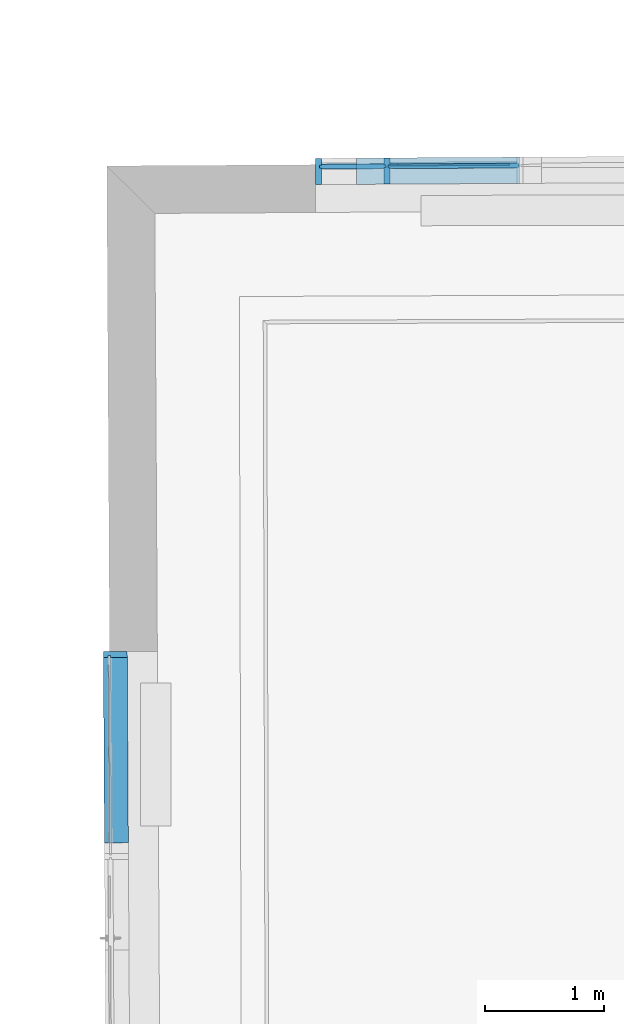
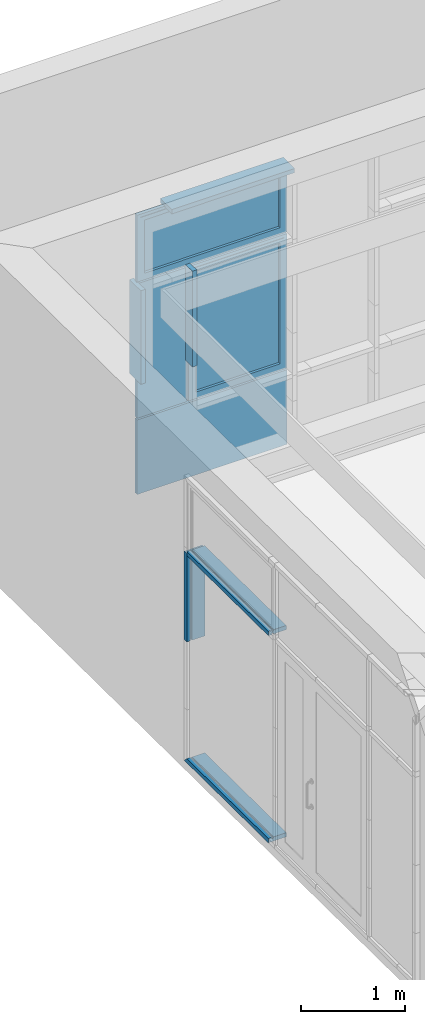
# One storey, part 129 of 196: 12 building element parts, 2 elements without a shape of their own.
"""IFC2X3 building model written with IfcOpenShell, lengths in metres."""

from ifc_helpers import new_model, entity, si_unit, converted_unit, derived_unit, money_unit, direction, frame, origin_with_axes, place, context, subcontext, project, spatial, faceted_brep, material, type_object, element, aggregate, save


model = new_model("IFC2X3")

# Units and contexts
model_context = context("Model", 3, precision=1e-05, world=origin_with_axes(), true_north=direction((0.0, 1.0)))
body_context = subcontext(model_context, "Body", "Model", "MODEL_VIEW")
ifc_project = project(units=[si_unit("LENGTHUNIT", "METRE"), si_unit("AREAUNIT", "SQUARE_METRE"), si_unit("VOLUMEUNIT", "CUBIC_METRE"), converted_unit("PLANEANGLEUNIT", "DEGREE", entity("IfcPlaneAngleMeasure", 0.0174532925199), si_unit("PLANEANGLEUNIT", "RADIAN"), dimensions=[0, 0, 0, 0, 0, 0, 0]), money_unit("EUR"), converted_unit("TIMEUNIT", "Year", entity("IfcTimeMeasure", 31556926.0), si_unit("TIMEUNIT", "SECOND"), dimensions=[0, 0, 1, 0, 0, 0, 0]), si_unit("MASSUNIT", "GRAM", prefix="KILO"), si_unit("THERMODYNAMICTEMPERATUREUNIT", "DEGREE_CELSIUS"), si_unit("LUMINOUSINTENSITYUNIT", "LUMEN"), si_unit("ENERGYUNIT", "JOULE", prefix="MEGA"), derived_unit("THERMALCONDUCTANCEUNIT", [(si_unit("POWERUNIT", "WATT"), 1), (si_unit("LENGTHUNIT", "METRE"), -1), (si_unit("THERMODYNAMICTEMPERATUREUNIT", "KELVIN"), -1)]), derived_unit("SPECIFICHEATCAPACITYUNIT", [(si_unit("ENERGYUNIT", "JOULE"), 1), (si_unit("MASSUNIT", "GRAM", prefix="KILO"), -1), (si_unit("THERMODYNAMICTEMPERATUREUNIT", "KELVIN"), -1)]), derived_unit("MASSDENSITYUNIT", [(si_unit("MASSUNIT", "GRAM", prefix="KILO"), 1), (si_unit("VOLUMEUNIT", "CUBIC_METRE"), -1)])], contexts=[model_context])

# Site, building, storey
site_placement = place(None, origin_with_axes())
site = spatial("IfcSite", under=ifc_project, at=site_placement, Name="Gelände", CompositionType="ELEMENT")
building_placement = place(site_placement, origin_with_axes())
building = spatial("IfcBuilding", under=site, at=building_placement, Name="Gebäude", CompositionType="ELEMENT")
storey_placement = place(building_placement, frame((0.0, 0.0, -3.0), z_axis=(0.0, 0.0, 1.0), x_axis=(1.0, 0.0, 0.0)))
storey = spatial("IfcBuildingStorey", under=building, at=storey_placement, Name="KELLERGESCHOSS", CompositionType="ELEMENT", Elevation=-3.0)

# Proxy, building element parts
building_element_proxy_type = type_object("IfcBuildingElementProxyType", Name="Fassadentyp", PredefinedType="NOTDEFINED")
proxy_1_placement = place(storey_placement, frame((-34.913387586, 47.2552574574, 0.421025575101), z_axis=(0.0, 0.0, 1.0), x_axis=(1.0, 0.0, 0.0)))
proxy_1 = element("IfcBuildingElementProxy", 1, at=proxy_1_placement, inside=storey, type_object=building_element_proxy_type, Name="Fassade-002")
ifc_material_1 = material(Name="53_Metall, Aluminium")
building_element_part_1_placement = place(proxy_1_placement, origin_with_axes())
building_element_part_1 = element("IfcBuildingElementPart", 2, at=building_element_part_1_placement, material=ifc_material_1, Name="53_Metall, Aluminium", context=body_context, shape_type="Brep", body=[
    faceted_brep([(-0.00495621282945, 2.55018641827, 2.45764338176), (-0.00486824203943, 2.53518667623, 2.45764338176), (0.135129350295, 2.53600773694, 2.45764338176), (0.134836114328, 2.58600687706, 2.45764338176), (-0.0651604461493, 2.58483393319, 2.45764338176), (-0.0648672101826, 2.53483479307, 2.45764338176), (-0.0248678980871, 2.53506938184, 2.45764338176), (-0.0249558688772, 2.55006912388, 2.45764338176), (-0.00495621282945, 2.55018641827, 1.42000003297), (-0.00486824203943, 2.53518667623, 1.42000003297), (0.135129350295, 2.53600773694, 1.42000003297), (0.134836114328, 2.58600687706, 1.42000003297), (-0.0651604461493, 2.58483393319, 1.42000003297), (-0.0648672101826, 2.53483479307, 1.42000003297), (-0.0248678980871, 2.53506938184, 1.42000003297), (-0.0249558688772, 2.55006912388, 1.42000003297)], [[[0, 1, 2, 3, 4, 5, 6, 7]], [[0, 8, 9, 1]], [[9, 10, 2, 1]], [[10, 11, 3, 2]], [[11, 12, 4, 3]], [[12, 13, 5, 4]], [[6, 5, 13, 14]], [[14, 15, 7, 6]], [[7, 15, 8, 0]], [[8, 15, 14, 13, 12, 11, 10, 9]]]),
])
building_element_part_2_placement = place(proxy_1_placement, origin_with_axes())
building_element_part_2 = element("IfcBuildingElementPart", 3, at=building_element_part_2_placement, material=ifc_material_1, Name="53_Metall, Aluminium", context=body_context, shape_type="Brep", body=[
    faceted_brep([(0.00424004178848, 0.982149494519, 2.44764338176), (0.00424004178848, 0.982149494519, 2.43264338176), (0.144237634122, 0.982970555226, 2.43264338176), (0.144237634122, 0.982970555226, 2.48264338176), (0.00424004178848, 0.982149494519, 2.48264338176), (0.00424004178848, 0.982149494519, 2.46764338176), (-0.0157596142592, 0.982032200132, 2.46764338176), (-0.0157596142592, 0.982032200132, 2.48264338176), (-0.0557589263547, 0.981797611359, 2.48264338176), (-0.0557589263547, 0.981797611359, 2.43264338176), (-0.0157596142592, 0.982032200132, 2.43264338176), (-0.0157596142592, 0.982032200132, 2.44764338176), (-0.00486824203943, 2.53518667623, 2.44764338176), (-0.00486824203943, 2.53518667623, 2.43264338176), (0.135129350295, 2.53600773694, 2.43264338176), (0.135129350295, 2.53600773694, 2.48264338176), (-0.00486824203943, 2.53518667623, 2.48264338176), (-0.00486824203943, 2.53518667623, 2.46764338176), (-0.0248678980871, 2.53506938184, 2.46764338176), (-0.0248678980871, 2.53506938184, 2.48264338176), (-0.0648672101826, 2.53483479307, 2.48264338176), (-0.0648672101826, 2.53483479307, 2.43264338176), (-0.0248678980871, 2.53506938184, 2.43264338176), (-0.0248678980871, 2.53506938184, 2.44764338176)], [[[0, 1, 2, 3, 4, 5, 6, 7, 8, 9, 10, 11]], [[1, 0, 12, 13]], [[1, 13, 14, 2]], [[2, 14, 15, 3]], [[4, 3, 15, 16]], [[4, 16, 17, 5]], [[5, 17, 18, 6]], [[7, 6, 18, 19]], [[19, 20, 8, 7]], [[8, 20, 21, 9]], [[22, 10, 9, 21]], [[11, 10, 22, 23]], [[0, 11, 23, 12]], [[23, 22, 21, 20, 19, 18, 17, 16, 15, 14, 13, 12]]]),
])
building_element_part_3_placement = place(proxy_1_placement, origin_with_axes())
building_element_part_3 = element("IfcBuildingElementPart", 4, at=building_element_part_3_placement, material=ifc_material_1, Name="53_Metall, Aluminium", context=body_context, shape_type="Brep", body=[
    faceted_brep([(0.00424004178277, 0.982149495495, 0.035), (-0.015759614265, 0.982032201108, 0.035), (-0.015759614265, 0.982032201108, 0.05), (-0.0557589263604, 0.981797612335, 0.05), (-0.0557589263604, 0.981797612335, 0.0), (0.144237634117, 0.982970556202, 0.0), (0.144237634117, 0.982970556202, 0.05), (0.00424004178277, 0.982149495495, 0.05), (-0.00495621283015, 2.55018641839, 0.035), (-0.0249558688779, 2.550069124, 0.035), (-0.0248678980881, 2.53506938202, 0.05), (-0.0648672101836, 2.53483479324, 0.05), (-0.0651604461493, 2.58483393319, 0.0), (0.134836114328, 2.58600687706, 0.0), (0.135129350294, 2.53600773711, 0.05), (-0.00486824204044, 2.5351866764, 0.05)], [[[0, 1, 2, 3, 4, 5, 6, 7]], [[1, 0, 8, 9]], [[10, 2, 1, 9]], [[2, 10, 11, 3]], [[4, 3, 11, 12]], [[5, 4, 12, 13]], [[6, 5, 13, 14]], [[15, 7, 6, 14]], [[0, 7, 15, 8]], [[8, 15, 14, 13, 12, 11, 10, 9]]]),
])
aggregate(proxy_1, [building_element_part_1, building_element_part_2, building_element_part_3])

proxy_2_placement = place(storey_placement, frame((-32.8906294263, 53.9050625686, 0.421025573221), z_axis=(0.0, 0.0, 1.0), x_axis=(1.0, 0.0, 0.0)))
proxy_2 = element("IfcBuildingElementProxy", 5, at=proxy_2_placement, inside=storey, type_object=building_element_proxy_type, Name="Fassade-002")
ifc_material_2 = material(Name="45_Glas, Normalglas")
building_element_part_4_placement = place(proxy_2_placement, origin_with_axes())
building_element_part_4 = element("IfcBuildingElementPart", 6, at=building_element_part_4_placement, material=ifc_material_2, Name="45_Glas, Normalglas", context=body_context, shape_type="Brep", body=[
    faceted_brep([(-0.276092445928, -0.0216314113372, 2.51000004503), (0.0341180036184, -0.0197987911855, 2.51000004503), (0.033881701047, 0.0202005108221, 2.51000004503), (-0.2763287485, 0.0183678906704, 2.51000004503), (-0.276092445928, -0.0216314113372, 1.42000003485), (-0.276092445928, -0.0216314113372, 0.930851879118), (0.0341180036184, -0.0197987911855, 0.930851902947), (0.27866174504, -0.0183541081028, 0.930851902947), (0.27866174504, -0.0183541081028, 1.42000003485), (0.27866174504, -0.0183541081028, 2.51000004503), (0.278425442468, 0.0216451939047, 2.51000004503), (0.278425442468, 0.0216451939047, 1.42000003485), (0.278425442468, 0.0216451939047, 0.930851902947), (0.033881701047, 0.0202005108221, 0.930851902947), (-0.2763287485, 0.0183678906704, 0.930851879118), (-0.2763287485, 0.0183678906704, 1.42000003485)], [[[0, 1, 2, 3]], [[0, 4, 5, 6, 7, 8, 9, 1]], [[1, 9, 10, 2]], [[3, 2, 10, 11, 12, 13, 14, 15]], [[4, 0, 3, 15]], [[5, 4, 15, 14]], [[6, 5, 14, 13]], [[7, 6, 13, 12]], [[8, 7, 12, 11]], [[9, 8, 11, 10]]]),
])
building_element_part_5_placement = place(proxy_2_placement, origin_with_axes())
building_element_part_5 = element("IfcBuildingElementPart", 7, at=building_element_part_5_placement, material=ifc_material_1, Name="53_Metall, Aluminium", context=body_context, shape_type="Brep", body=[
    faceted_brep([(1.37878358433, 0.0381459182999, 0.945851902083), (0.313365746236, 0.0318517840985, 0.945851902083), (0.313336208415, 0.0368516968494, 0.945851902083), (1.37875404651, 0.0431458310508, 0.945851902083), (1.33378436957, 0.037880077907, 0.990851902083), (0.358364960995, 0.0321176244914, 0.990851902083), (0.358335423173, 0.0371175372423, 0.990851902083), (1.33375483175, 0.0428799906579, 0.990851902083)], [[[0, 1, 2, 3]], [[0, 4, 5, 1]], [[1, 5, 6, 2]], [[3, 2, 6, 7]], [[4, 0, 3, 7]], [[5, 4, 7, 6]]]),
    faceted_brep([(0.313365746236, 0.0318517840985, 0.945851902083), (0.313365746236, 0.0318517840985, 2.4950000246), (0.313336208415, 0.0368516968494, 2.4950000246), (0.313336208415, 0.0368516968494, 0.945851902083), (0.358364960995, 0.0321176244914, 0.990851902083), (0.358364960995, 0.0321176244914, 2.4500000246), (0.358335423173, 0.0371175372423, 2.4500000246), (0.358335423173, 0.0371175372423, 0.990851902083)], [[[0, 1, 2, 3]], [[0, 4, 5, 1]], [[1, 5, 6, 2]], [[3, 2, 6, 7]], [[4, 0, 3, 7]], [[5, 4, 7, 6]]]),
    faceted_brep([(1.37878358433, 0.0381459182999, 2.4950000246), (1.33378436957, 0.037880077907, 2.4500000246), (1.33375483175, 0.0428799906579, 2.4500000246), (1.37875404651, 0.0431458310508, 2.4950000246), (0.313365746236, 0.0318517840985, 2.4950000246), (0.358364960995, 0.0321176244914, 2.4500000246), (0.358335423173, 0.0371175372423, 2.4500000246), (0.313336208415, 0.0368516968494, 2.4950000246)], [[[0, 1, 2, 3]], [[0, 4, 5, 1]], [[1, 5, 6, 2]], [[3, 2, 6, 7]], [[4, 0, 3, 7]], [[5, 4, 7, 6]]]),
    faceted_brep([(1.37878358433, 0.0381459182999, 0.945851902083), (1.33378436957, 0.037880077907, 0.990851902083), (1.33375483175, 0.0428799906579, 0.990851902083), (1.37875404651, 0.0431458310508, 0.945851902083), (1.37878358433, 0.0381459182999, 2.4950000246), (1.33378436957, 0.037880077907, 2.4500000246), (1.33375483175, 0.0428799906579, 2.4500000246), (1.37875404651, 0.0431458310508, 2.4950000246)], [[[0, 1, 2, 3]], [[0, 4, 5, 1]], [[1, 5, 6, 2]], [[3, 2, 6, 7]], [[4, 0, 3, 7]], [[5, 4, 7, 6]]]),
    faceted_brep([(1.37907896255, -0.0118532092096, 0.945851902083), (0.31366112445, -0.018147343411, 0.945851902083), (0.313365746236, 0.0318517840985, 0.945851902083), (1.37878358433, 0.0381459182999, 0.945851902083), (1.35907931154, -0.0119713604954, 0.965851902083), (0.333660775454, -0.0180291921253, 0.965851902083), (0.33336539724, 0.0319699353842, 0.965851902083), (1.35878393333, 0.0380277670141, 0.965851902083)], [[[0, 1, 2, 3]], [[0, 4, 5, 1]], [[1, 5, 6, 2]], [[3, 2, 6, 7]], [[4, 0, 3, 7]], [[5, 4, 7, 6]]]),
    faceted_brep([(0.31366112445, -0.018147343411, 0.945851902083), (0.31366112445, -0.018147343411, 2.4950000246), (0.313365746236, 0.0318517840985, 2.4950000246), (0.313365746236, 0.0318517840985, 0.945851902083), (0.333660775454, -0.0180291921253, 0.965851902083), (0.333660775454, -0.0180291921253, 2.4750000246), (0.33336539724, 0.0319699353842, 2.4750000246), (0.33336539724, 0.0319699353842, 0.965851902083)], [[[0, 1, 2, 3]], [[0, 4, 5, 1]], [[1, 5, 6, 2]], [[3, 2, 6, 7]], [[4, 0, 3, 7]], [[5, 4, 7, 6]]]),
    faceted_brep([(1.37907896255, -0.0118532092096, 2.4950000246), (1.35907931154, -0.0119713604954, 2.4750000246), (1.35878393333, 0.0380277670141, 2.4750000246), (1.37878358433, 0.0381459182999, 2.4950000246), (0.31366112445, -0.018147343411, 2.4950000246), (0.333660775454, -0.0180291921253, 2.4750000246), (0.33336539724, 0.0319699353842, 2.4750000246), (0.313365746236, 0.0318517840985, 2.4950000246)], [[[0, 1, 2, 3]], [[0, 4, 5, 1]], [[1, 5, 6, 2]], [[3, 2, 6, 7]], [[4, 0, 3, 7]], [[5, 4, 7, 6]]]),
    faceted_brep([(1.37907896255, -0.0118532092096, 0.945851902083), (1.35907931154, -0.0119713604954, 0.965851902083), (1.35878393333, 0.0380277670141, 0.965851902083), (1.37878358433, 0.0381459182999, 0.945851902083), (1.37907896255, -0.0118532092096, 2.4950000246), (1.35907931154, -0.0119713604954, 2.4750000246), (1.35878393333, 0.0380277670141, 2.4750000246), (1.37878358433, 0.0381459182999, 2.4950000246)], [[[0, 1, 2, 3]], [[0, 4, 5, 1]], [[1, 5, 6, 2]], [[3, 2, 6, 7]], [[4, 0, 3, 7]], [[5, 4, 7, 6]]]),
    faceted_brep([(1.39407872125, -0.0117645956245, 0.930851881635), (0.298661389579, -0.0182359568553, 0.930851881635), (0.298425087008, 0.0217633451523, 0.930851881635), (1.39384241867, 0.028234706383, 0.930851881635), (1.37907896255, -0.0118532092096, 0.945851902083), (0.31366112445, -0.018147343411, 0.945851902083), (0.313424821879, 0.0218519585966, 0.945851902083), (1.37884265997, 0.028146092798, 0.945851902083)], [[[0, 1, 2, 3]], [[0, 4, 5, 1]], [[1, 5, 6, 2]], [[3, 2, 6, 7]], [[4, 0, 3, 7]], [[5, 4, 7, 6]]]),
    faceted_brep([(0.298661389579, -0.0182359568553, 0.930851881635), (0.298661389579, -0.0182359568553, 2.51000004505), (0.298425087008, 0.0217633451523, 2.51000004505), (0.298425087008, 0.0217633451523, 0.930851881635), (0.31366112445, -0.018147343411, 0.945851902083), (0.31366112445, -0.018147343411, 2.4950000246), (0.313424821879, 0.0218519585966, 2.4950000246), (0.313424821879, 0.0218519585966, 0.945851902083)], [[[0, 1, 2, 3]], [[0, 4, 5, 1]], [[1, 5, 6, 2]], [[3, 2, 6, 7]], [[4, 0, 3, 7]], [[5, 4, 7, 6]]]),
    faceted_brep([(0.298661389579, -0.0182359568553, 2.51000004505), (1.39407872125, -0.0117645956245, 2.51000004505), (1.39384241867, 0.028234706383, 2.51000004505), (0.298425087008, 0.0217633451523, 2.51000004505), (0.31366112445, -0.018147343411, 2.4950000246), (1.37907896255, -0.0118532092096, 2.4950000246), (1.37884265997, 0.028146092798, 2.4950000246), (0.313424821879, 0.0218519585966, 2.4950000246)], [[[0, 1, 2, 3]], [[0, 4, 5, 1]], [[1, 5, 6, 2]], [[3, 2, 6, 7]], [[4, 0, 3, 7]], [[5, 4, 7, 6]]]),
    faceted_brep([(1.39407872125, -0.0117645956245, 2.51000004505), (1.39407872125, -0.0117645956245, 0.930851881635), (1.39384241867, 0.028234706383, 0.930851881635), (1.39384241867, 0.028234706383, 2.51000004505), (1.37907896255, -0.0118532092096, 2.4950000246), (1.37907896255, -0.0118532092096, 0.945851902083), (1.37884265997, 0.028146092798, 0.945851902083), (1.37884265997, 0.028146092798, 2.4950000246)], [[[0, 1, 2, 3]], [[0, 4, 5, 1]], [[1, 5, 6, 2]], [[3, 2, 6, 7]], [[4, 0, 3, 7]], [[5, 4, 7, 6]]]),
    faceted_brep([(1.31378471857, 0.0377619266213, 1.01085190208), (1.3141096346, -0.0172371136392, 1.01085190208), (1.3141096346, -0.0172371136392, 2.4300000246), (1.31378471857, 0.0377619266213, 2.4300000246), (1.35878393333, 0.0380277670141, 0.965851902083), (1.35910884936, -0.0169712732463, 0.965851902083), (1.35910884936, -0.0169712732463, 2.4750000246), (1.35878393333, 0.0380277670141, 2.4750000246)], [[[0, 1, 2, 3]], [[4, 5, 1, 0]], [[1, 5, 6, 2]], [[3, 2, 6, 7]], [[0, 3, 7, 4]], [[7, 6, 5, 4]]]),
    faceted_brep([(0.33336539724, 0.0319699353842, 0.965851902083), (0.333690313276, -0.0230291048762, 0.965851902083), (0.333690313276, -0.0230291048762, 2.4750000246), (0.33336539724, 0.0319699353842, 2.4750000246), (0.378364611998, 0.0322357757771, 1.01085190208), (0.378689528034, -0.0227632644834, 1.01085190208), (0.378689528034, -0.0227632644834, 2.4300000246), (0.378364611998, 0.0322357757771, 2.4300000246)], [[[0, 1, 2, 3]], [[4, 5, 1, 0]], [[1, 5, 6, 2]], [[3, 2, 6, 7]], [[0, 3, 7, 4]], [[7, 6, 5, 4]]]),
    faceted_brep([(0.33336539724, 0.0319699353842, 0.965851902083), (0.333690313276, -0.0230291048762, 0.965851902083), (0.378689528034, -0.0227632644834, 1.01085190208), (0.378364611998, 0.0322357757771, 1.01085190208), (1.35878393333, 0.0380277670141, 0.965851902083), (1.35910884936, -0.0169712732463, 0.965851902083), (1.3141096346, -0.0172371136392, 1.01085190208), (1.31378471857, 0.0377619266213, 1.01085190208)], [[[0, 1, 2, 3]], [[4, 5, 1, 0]], [[1, 5, 6, 2]], [[3, 2, 6, 7]], [[0, 3, 7, 4]], [[7, 6, 5, 4]]]),
    faceted_brep([(1.35878393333, 0.0380277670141, 2.4750000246), (1.35910884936, -0.0169712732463, 2.4750000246), (1.3141096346, -0.0172371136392, 2.4300000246), (1.31378471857, 0.0377619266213, 2.4300000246), (0.33336539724, 0.0319699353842, 2.4750000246), (0.333690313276, -0.0230291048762, 2.4750000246), (0.378689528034, -0.0227632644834, 2.4300000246), (0.378364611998, 0.0322357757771, 2.4300000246)], [[[0, 1, 2, 3]], [[4, 5, 1, 0]], [[1, 5, 6, 2]], [[3, 2, 6, 7]], [[0, 3, 7, 4]], [[7, 6, 5, 4]]]),
])
building_element_part_6_placement = place(proxy_2_placement, origin_with_axes())
building_element_part_6 = element("IfcBuildingElementPart", 8, at=building_element_part_6_placement, material=ifc_material_2, Name="45_Glas, Normalglas", context=body_context, shape_type="Brep", body=[
    faceted_brep([(1.31384379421, 0.0277621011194, 1.01085190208), (1.31393831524, 0.0117623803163, 1.01085190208), (0.37851820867, 0.00623622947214, 1.01085190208), (0.378423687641, 0.0222359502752, 1.01085190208), (1.31384379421, 0.0277621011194, 2.4300000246), (1.31393831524, 0.0117623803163, 2.4300000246), (0.37851820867, 0.00623622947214, 2.4300000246), (0.378423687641, 0.0222359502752, 2.4300000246)], [[[0, 1, 2, 3]], [[4, 5, 1, 0]], [[1, 5, 6, 2]], [[3, 2, 6, 7]], [[0, 3, 7, 4]], [[7, 6, 5, 4]]]),
])
building_element_part_7_placement = place(proxy_2_placement, origin_with_axes())
building_element_part_7 = element("IfcBuildingElementPart", 9, at=building_element_part_7_placement, material=ifc_material_1, Name="53_Metall, Aluminium", context=body_context, shape_type="Brep", body=[
    faceted_brep([(1.37878359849, 0.0381459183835, 2.54500003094), (-0.261388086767, 0.0284563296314, 2.54500003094), (-0.261417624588, 0.0334562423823, 2.54500003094), (1.37875406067, 0.0431458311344, 2.54500003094), (1.33378438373, 0.0378800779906, 2.59000003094), (-0.216388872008, 0.0287221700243, 2.59000003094), (-0.21641840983, 0.0337220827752, 2.59000003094), (1.33375484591, 0.0428799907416, 2.59000003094)], [[[0, 1, 2, 3]], [[0, 4, 5, 1]], [[1, 5, 6, 2]], [[3, 2, 6, 7]], [[4, 0, 3, 7]], [[5, 4, 7, 6]]]),
    faceted_brep([(-0.261388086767, 0.0284563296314, 2.54500003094), (-0.261388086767, 0.0284563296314, 3.29999994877), (-0.261417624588, 0.0334562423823, 3.29999994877), (-0.261417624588, 0.0334562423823, 2.54500003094), (-0.216388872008, 0.0287221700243, 2.59000003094), (-0.216388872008, 0.0287221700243, 3.25499994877), (-0.21641840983, 0.0337220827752, 3.25499994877), (-0.21641840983, 0.0337220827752, 2.59000003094)], [[[0, 1, 2, 3]], [[0, 4, 5, 1]], [[1, 5, 6, 2]], [[3, 2, 6, 7]], [[4, 0, 3, 7]], [[5, 4, 7, 6]]]),
    faceted_brep([(1.37878359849, 0.0381459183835, 3.29999994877), (1.33378438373, 0.0378800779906, 3.25499994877), (1.33375484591, 0.0428799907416, 3.25499994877), (1.37875406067, 0.0431458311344, 3.29999994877), (-0.261388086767, 0.0284563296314, 3.29999994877), (-0.216388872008, 0.0287221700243, 3.25499994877), (-0.21641840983, 0.0337220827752, 3.25499994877), (-0.261417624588, 0.0334562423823, 3.29999994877)], [[[0, 1, 2, 3]], [[0, 4, 5, 1]], [[1, 5, 6, 2]], [[3, 2, 6, 7]], [[4, 0, 3, 7]], [[5, 4, 7, 6]]]),
    faceted_brep([(1.37878359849, 0.0381459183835, 2.54500003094), (1.33378438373, 0.0378800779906, 2.59000003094), (1.33375484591, 0.0428799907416, 2.59000003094), (1.37875406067, 0.0431458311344, 2.54500003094), (1.37878359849, 0.0381459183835, 3.29999994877), (1.33378438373, 0.0378800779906, 3.25499994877), (1.33375484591, 0.0428799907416, 3.25499994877), (1.37875406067, 0.0431458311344, 3.29999994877)], [[[0, 1, 2, 3]], [[0, 4, 5, 1]], [[1, 5, 6, 2]], [[3, 2, 6, 7]], [[4, 0, 3, 7]], [[5, 4, 7, 6]]]),
    faceted_brep([(1.3790789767, -0.011853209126, 2.54500003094), (-0.261092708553, -0.0215427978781, 2.54500003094), (-0.261388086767, 0.0284563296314, 2.54500003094), (1.37878359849, 0.0381459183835, 2.54500003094), (1.3590793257, -0.0119713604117, 2.56500003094), (-0.241093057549, -0.0214246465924, 2.56500003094), (-0.241388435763, 0.0285744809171, 2.56500003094), (1.35878394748, 0.0380277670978, 2.56500003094)], [[[0, 1, 2, 3]], [[0, 4, 5, 1]], [[1, 5, 6, 2]], [[3, 2, 6, 7]], [[4, 0, 3, 7]], [[5, 4, 7, 6]]]),
    faceted_brep([(-0.261092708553, -0.0215427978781, 2.54500003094), (-0.261092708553, -0.0215427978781, 3.29999994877), (-0.261388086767, 0.0284563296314, 3.29999994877), (-0.261388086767, 0.0284563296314, 2.54500003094), (-0.241093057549, -0.0214246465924, 2.56500003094), (-0.241093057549, -0.0214246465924, 3.27999994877), (-0.241388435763, 0.0285744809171, 3.27999994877), (-0.241388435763, 0.0285744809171, 2.56500003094)], [[[0, 1, 2, 3]], [[0, 4, 5, 1]], [[1, 5, 6, 2]], [[3, 2, 6, 7]], [[4, 0, 3, 7]], [[5, 4, 7, 6]]]),
    faceted_brep([(1.3790789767, -0.011853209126, 3.29999994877), (1.3590793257, -0.0119713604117, 3.27999994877), (1.35878394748, 0.0380277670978, 3.27999994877), (1.37878359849, 0.0381459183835, 3.29999994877), (-0.261092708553, -0.0215427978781, 3.29999994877), (-0.241093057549, -0.0214246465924, 3.27999994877), (-0.241388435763, 0.0285744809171, 3.27999994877), (-0.261388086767, 0.0284563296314, 3.29999994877)], [[[0, 1, 2, 3]], [[0, 4, 5, 1]], [[1, 5, 6, 2]], [[3, 2, 6, 7]], [[4, 0, 3, 7]], [[5, 4, 7, 6]]]),
    faceted_brep([(1.3790789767, -0.011853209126, 2.54500003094), (1.3590793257, -0.0119713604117, 2.56500003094), (1.35878394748, 0.0380277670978, 2.56500003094), (1.37878359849, 0.0381459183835, 2.54500003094), (1.3790789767, -0.011853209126, 3.29999994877), (1.3590793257, -0.0119713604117, 3.27999994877), (1.35878394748, 0.0380277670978, 3.27999994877), (1.37878359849, 0.0381459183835, 3.29999994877)], [[[0, 1, 2, 3]], [[0, 4, 5, 1]], [[1, 5, 6, 2]], [[3, 2, 6, 7]], [[4, 0, 3, 7]], [[5, 4, 7, 6]]]),
    faceted_brep([(1.39407871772, -0.0117645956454, 2.53000002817), (-0.276092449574, -0.0216314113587, 2.53000002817), (-0.276328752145, 0.0183678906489, 2.53000002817), (1.39384241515, 0.0282347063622, 2.53000002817), (1.3790789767, -0.011853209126, 2.54500003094), (-0.261092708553, -0.0215427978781, 2.54500003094), (-0.261329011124, 0.0184565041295, 2.54500003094), (1.37884267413, 0.0281460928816, 2.54500003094)], [[[0, 1, 2, 3]], [[0, 4, 5, 1]], [[1, 5, 6, 2]], [[3, 2, 6, 7]], [[4, 0, 3, 7]], [[5, 4, 7, 6]]]),
    faceted_brep([(-0.276092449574, -0.0216314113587, 2.53000002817), (-0.276092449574, -0.0216314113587, 3.31499995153), (-0.276328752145, 0.0183678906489, 3.31499995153), (-0.276328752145, 0.0183678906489, 2.53000002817), (-0.261092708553, -0.0215427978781, 2.54500003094), (-0.261092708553, -0.0215427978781, 3.29999994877), (-0.261329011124, 0.0184565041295, 3.29999994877), (-0.261329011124, 0.0184565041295, 2.54500003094)], [[[0, 1, 2, 3]], [[0, 4, 5, 1]], [[1, 5, 6, 2]], [[3, 2, 6, 7]], [[4, 0, 3, 7]], [[5, 4, 7, 6]]]),
    faceted_brep([(-0.276092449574, -0.0216314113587, 3.31499995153), (1.39407871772, -0.0117645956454, 3.31499995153), (1.39384241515, 0.0282347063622, 3.31499995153), (-0.276328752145, 0.0183678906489, 3.31499995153), (-0.261092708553, -0.0215427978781, 3.29999994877), (1.3790789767, -0.011853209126, 3.29999994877), (1.37884267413, 0.0281460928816, 3.29999994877), (-0.261329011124, 0.0184565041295, 3.29999994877)], [[[0, 1, 2, 3]], [[0, 4, 5, 1]], [[1, 5, 6, 2]], [[3, 2, 6, 7]], [[4, 0, 3, 7]], [[5, 4, 7, 6]]]),
    faceted_brep([(1.39407871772, -0.0117645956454, 3.31499995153), (1.39407871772, -0.0117645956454, 2.53000002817), (1.39384241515, 0.0282347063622, 2.53000002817), (1.39384241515, 0.0282347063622, 3.31499995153), (1.3790789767, -0.011853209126, 3.29999994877), (1.3790789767, -0.011853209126, 2.54500003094), (1.37884267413, 0.0281460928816, 2.54500003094), (1.37884267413, 0.0281460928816, 3.29999994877)], [[[0, 1, 2, 3]], [[0, 4, 5, 1]], [[1, 5, 6, 2]], [[3, 2, 6, 7]], [[4, 0, 3, 7]], [[5, 4, 7, 6]]]),
    faceted_brep([(1.31378473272, 0.0377619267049, 2.61000003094), (1.31410964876, -0.0172371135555, 2.61000003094), (1.31410964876, -0.0172371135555, 3.23499994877), (1.31378473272, 0.0377619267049, 3.23499994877), (1.35878394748, 0.0380277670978, 2.56500003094), (1.35910886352, -0.0169712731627, 2.56500003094), (1.35910886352, -0.0169712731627, 3.27999994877), (1.35878394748, 0.0380277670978, 3.27999994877)], [[[0, 1, 2, 3]], [[4, 5, 1, 0]], [[1, 5, 6, 2]], [[3, 2, 6, 7]], [[0, 3, 7, 4]], [[7, 6, 5, 4]]]),
    faceted_brep([(-0.241388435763, 0.0285744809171, 2.56500003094), (-0.241063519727, -0.0264245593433, 2.56500003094), (-0.241063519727, -0.0264245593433, 3.27999994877), (-0.241388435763, 0.0285744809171, 3.27999994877), (-0.196389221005, 0.02884032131, 2.61000003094), (-0.196064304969, -0.0261587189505, 2.61000003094), (-0.196064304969, -0.0261587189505, 3.23499994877), (-0.196389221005, 0.02884032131, 3.23499994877)], [[[0, 1, 2, 3]], [[4, 5, 1, 0]], [[1, 5, 6, 2]], [[3, 2, 6, 7]], [[0, 3, 7, 4]], [[7, 6, 5, 4]]]),
    faceted_brep([(-0.241388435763, 0.0285744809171, 2.56500003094), (-0.241063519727, -0.0264245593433, 2.56500003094), (-0.196064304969, -0.0261587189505, 2.61000003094), (-0.196389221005, 0.02884032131, 2.61000003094), (1.35878394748, 0.0380277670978, 2.56500003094), (1.35910886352, -0.0169712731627, 2.56500003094), (1.31410964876, -0.0172371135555, 2.61000003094), (1.31378473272, 0.0377619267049, 2.61000003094)], [[[0, 1, 2, 3]], [[4, 5, 1, 0]], [[1, 5, 6, 2]], [[3, 2, 6, 7]], [[0, 3, 7, 4]], [[7, 6, 5, 4]]]),
    faceted_brep([(1.35878394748, 0.0380277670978, 3.27999994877), (1.35910886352, -0.0169712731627, 3.27999994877), (1.31410964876, -0.0172371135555, 3.23499994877), (1.31378473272, 0.0377619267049, 3.23499994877), (-0.241388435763, 0.0285744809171, 3.27999994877), (-0.241063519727, -0.0264245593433, 3.27999994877), (-0.196064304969, -0.0261587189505, 3.23499994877), (-0.196389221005, 0.02884032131, 3.23499994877)], [[[0, 1, 2, 3]], [[4, 5, 1, 0]], [[1, 5, 6, 2]], [[3, 2, 6, 7]], [[0, 3, 7, 4]], [[7, 6, 5, 4]]]),
])
building_element_part_8_placement = place(proxy_2_placement, origin_with_axes())
building_element_part_8 = element("IfcBuildingElementPart", 10, at=building_element_part_8_placement, material=ifc_material_2, Name="45_Glas, Normalglas", context=body_context, shape_type="Brep", body=[
    faceted_brep([(1.31384380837, 0.027762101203, 2.61000003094), (1.3139383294, 0.0117623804, 2.61000003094), (-0.196235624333, 0.00284077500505, 2.61000003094), (-0.196330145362, 0.0188404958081, 2.61000003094), (1.31384380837, 0.027762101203, 3.23499994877), (1.3139383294, 0.0117623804, 3.23499994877), (-0.196235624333, 0.00284077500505, 3.23499994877), (-0.196330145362, 0.0188404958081, 3.23499994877)], [[[0, 1, 2, 3]], [[4, 5, 1, 0]], [[1, 5, 6, 2]], [[3, 2, 6, 7]], [[0, 3, 7, 4]], [[7, 6, 5, 4]]]),
])
building_element_part_9_placement = place(proxy_2_placement, origin_with_axes())
building_element_part_9 = element("IfcBuildingElementPart", 11, at=building_element_part_9_placement, material=ifc_material_2, Name="45_Glas, Normalglas", context=body_context, shape_type="Brep", body=[
    faceted_brep([(-0.276092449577, -0.0216314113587, 0.910851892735), (0.0341180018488, -0.0197987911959, 0.910851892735), (0.0338816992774, 0.0202005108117, 0.910851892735), (-0.276328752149, 0.0183678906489, 0.910851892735), (-0.276092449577, -0.0216314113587, 0.620000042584), (-0.276092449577, -0.0216314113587, 0.0349999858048), (0.0341180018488, -0.0197987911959, 0.0349999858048), (1.39407871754, -0.0117645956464, 0.0349999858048), (1.39407871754, -0.0117645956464, 0.620000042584), (1.39407871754, -0.0117645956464, 0.910851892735), (0.288661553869, -0.0182950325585, 0.910851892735), (0.288425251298, 0.0217042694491, 0.910851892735), (1.39384241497, 0.0282347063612, 0.910851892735), (1.39384241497, 0.0282347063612, 0.620000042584), (1.39384241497, 0.0282347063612, 0.0349999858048), (0.0338816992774, 0.0202005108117, 0.0349999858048), (-0.276328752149, 0.0183678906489, 0.0349999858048), (-0.276328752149, 0.0183678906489, 0.620000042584)], [[[0, 1, 2, 3]], [[0, 4, 5, 6, 7, 8, 9, 10, 1]], [[1, 10, 11, 2]], [[3, 2, 11, 12, 13, 14, 15, 16, 17]], [[4, 0, 3, 17]], [[5, 4, 17, 16]], [[6, 5, 16, 15]], [[7, 6, 15, 14]], [[8, 7, 14, 13]], [[9, 8, 13, 12]], [[10, 9, 12, 11]]]),
])
building_element_part_10_placement = place(proxy_2_placement, origin_with_axes())
building_element_part_10 = element("IfcBuildingElementPart", 12, at=building_element_part_10_placement, material=ifc_material_1, Name="53_Metall, Aluminium", context=body_context, shape_type="Brep", body=[
    faceted_brep([(0.0340589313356, -0.00979896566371, 3.31499994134), (0.0340589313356, -0.00979896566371, 3.29999994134), (0.0348859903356, -0.14979652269, 3.29999994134), (0.0348859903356, -0.14979652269, 3.34999994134), (0.0335863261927, 0.0701996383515, 3.34999994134), (0.0335863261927, 0.0701996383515, 3.29999994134), (0.0339407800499, 0.0102006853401, 3.29999994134), (0.0339407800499, 0.0102006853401, 3.31499994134), (1.40401946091, -0.00170569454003, 3.31499994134), (1.40401946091, -0.00170569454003, 3.29999994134), (1.40484651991, -0.141703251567, 3.29999994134), (1.40484651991, -0.141703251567, 3.34999994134), (1.40354685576, 0.0782929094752, 3.34999994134), (1.40354685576, 0.0782929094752, 3.29999994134), (1.40390130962, 0.0182939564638, 3.29999994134), (1.40390130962, 0.0182939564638, 3.31499994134)], [[[0, 1, 2, 3, 4, 5, 6, 7]], [[0, 8, 9, 1]], [[9, 10, 2, 1]], [[10, 11, 3, 2]], [[11, 12, 4, 3]], [[12, 13, 5, 4]], [[6, 5, 13, 14]], [[14, 15, 7, 6]], [[7, 15, 8, 0]], [[8, 15, 14, 13, 12, 11, 10, 9]]]),
])
building_element_part_11_placement = place(proxy_2_placement, origin_with_axes())
building_element_part_11 = element("IfcBuildingElementPart", 13, at=building_element_part_11_placement, material=ifc_material_1, Name="53_Metall, Aluminium", context=body_context, shape_type="Brep", body=[
    faceted_brep([(-0.276151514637, -0.0116315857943, 2.52000003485), (-0.276269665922, 0.00836806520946, 2.52000003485), (-0.26126992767, 0.00845667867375, 2.52000003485), (-0.261624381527, 0.0684556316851, 2.52000003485), (-0.311623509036, 0.0681602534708, 2.52000003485), (-0.310323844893, -0.151835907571, 2.52000003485), (-0.260324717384, -0.151540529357, 2.52000003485), (-0.261151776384, -0.01154297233, 2.52000003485), (-0.276151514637, -0.0116315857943, 1.42000003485), (-0.276269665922, 0.00836806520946, 1.42000003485), (-0.26126992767, 0.00845667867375, 1.42000003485), (-0.261624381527, 0.0684556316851, 1.42000003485), (-0.311623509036, 0.0681602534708, 1.42000003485), (-0.310323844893, -0.151835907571, 1.42000003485), (-0.260324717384, -0.151540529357, 1.42000003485), (-0.261151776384, -0.01154297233, 1.42000003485)], [[[0, 1, 2, 3, 4, 5, 6, 7]], [[1, 0, 8, 9]], [[10, 2, 1, 9]], [[2, 10, 11, 3]], [[12, 4, 3, 11]], [[13, 5, 4, 12]], [[14, 6, 5, 13]], [[15, 7, 6, 14]], [[0, 7, 15, 8]], [[8, 15, 14, 13, 12, 11, 10, 9]]]),
])
building_element_part_12_placement = place(proxy_2_placement, origin_with_axes())
building_element_part_12 = element("IfcBuildingElementPart", 14, at=building_element_part_12_placement, material=ifc_material_1, Name="53_Metall, Aluminium", context=body_context, shape_type="Brep", body=[
    faceted_brep([(0.278602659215, -0.0083542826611, 2.54500003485), (0.263602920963, -0.00844289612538, 2.54500003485), (0.264429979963, -0.148440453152, 2.54500003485), (0.314429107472, -0.148145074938, 2.54500003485), (0.313602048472, -0.00814751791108, 2.54500003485), (0.298602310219, -0.00823613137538, 2.54500003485), (0.298484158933, 0.0117635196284, 2.54500003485), (0.313483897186, 0.0118521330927, 2.54500003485), (0.313129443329, 0.0718510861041, 2.54500003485), (0.26313031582, 0.0715557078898, 2.54500003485), (0.263484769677, 0.0115567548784, 2.54500003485), (0.27848450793, 0.0116453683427, 2.54500003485), (0.278602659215, -0.0083542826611, 1.42000003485), (0.263602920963, -0.00844289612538, 1.42000003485), (0.264429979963, -0.148440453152, 1.42000003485), (0.314429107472, -0.148145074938, 1.42000003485), (0.313602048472, -0.00814751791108, 1.42000003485), (0.298602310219, -0.00823613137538, 1.42000003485), (0.298484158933, 0.0117635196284, 1.42000003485), (0.313483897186, 0.0118521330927, 1.42000003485), (0.313129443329, 0.0718510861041, 1.42000003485), (0.26313031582, 0.0715557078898, 1.42000003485), (0.263484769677, 0.0115567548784, 1.42000003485), (0.27848450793, 0.0116453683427, 1.42000003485)], [[[0, 1, 2, 3, 4, 5, 6, 7, 8, 9, 10, 11]], [[1, 0, 12, 13]], [[1, 13, 14, 2]], [[3, 2, 14, 15]], [[4, 3, 15, 16]], [[4, 16, 17, 5]], [[5, 17, 18, 6]], [[7, 6, 18, 19]], [[19, 20, 8, 7]], [[9, 8, 20, 21]], [[22, 10, 9, 21]], [[11, 10, 22, 23]], [[0, 11, 23, 12]], [[23, 22, 21, 20, 19, 18, 17, 16, 15, 14, 13, 12]]]),
])
aggregate(proxy_2, [building_element_part_4, building_element_part_5, building_element_part_6, building_element_part_7, building_element_part_8, building_element_part_9, building_element_part_10, building_element_part_11, building_element_part_12])

save(model, "model.ifc")
